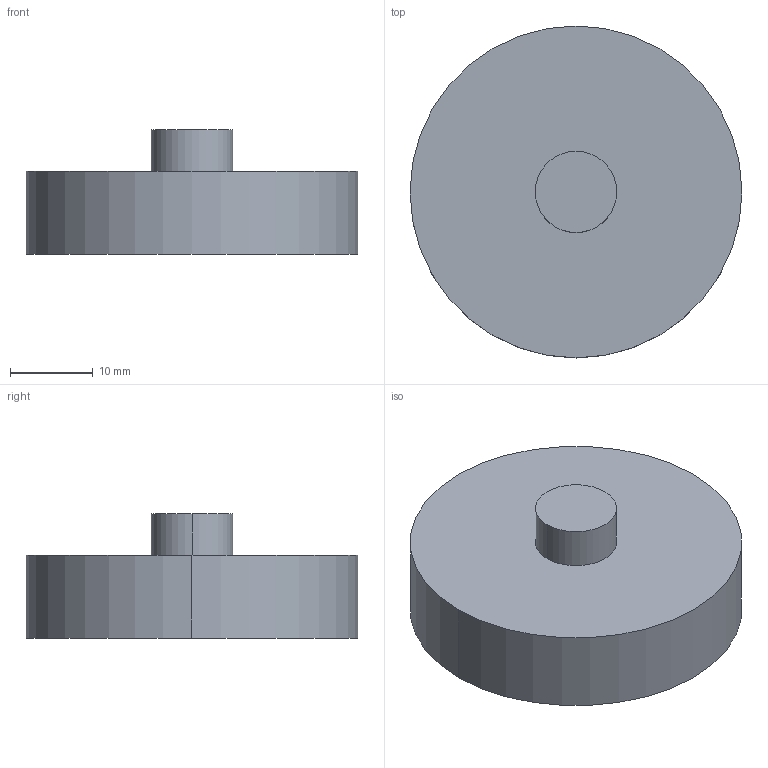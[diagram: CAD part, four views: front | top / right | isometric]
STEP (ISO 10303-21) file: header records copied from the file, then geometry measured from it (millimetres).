
FILE_DESCRIPTION (( 'STEP AP203' ), '1' );
FILE_NAME ('foot.STEP', '2019-07-18T16:09:26', ( '' ), ( '' ), 'SwSTEP 2.0', 'SolidWorks 2017', '' );
FILE_SCHEMA (( 'CONFIG_CONTROL_DESIGN' ));
Length unit declared in the file: millimetre
Products named in the file (1): foot
Bounding box: 40 x 40 x 15 mm (x, y, z)
Volume: 12943.5 mm3; surface area: 3923.8 mm2
Topology: 1 solids, 1 shells, 7 faces, 12 edges, 8 vertices
Faces by surface type: cylinder 4, plane 3
Entity records: 251 total; most frequent: DIRECTION 36, CARTESIAN_POINT 28, ORIENTED_EDGE 24, AXIS2_PLACEMENT_3D 16, EDGE_CURVE 12, VERTEX_POINT 8, PERSON_AND_ORGANIZATION 8, EDGE_LOOP 8
